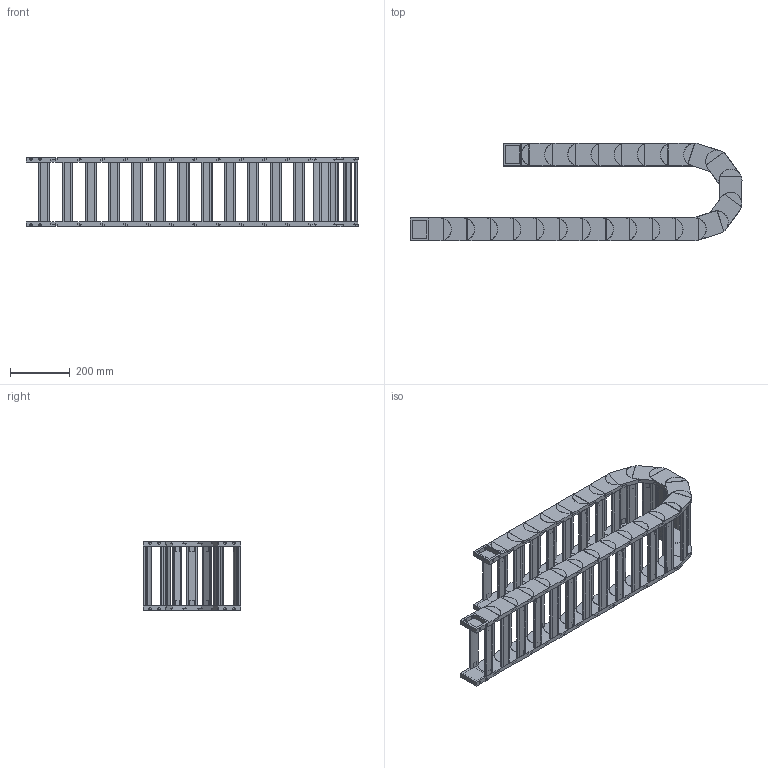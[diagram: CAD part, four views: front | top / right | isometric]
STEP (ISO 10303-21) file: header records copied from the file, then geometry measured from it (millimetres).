
FILE_DESCRIPTION((''),'2;1');
FILE_NAME('HD55-R125-ZPT_ASM','2022-06-17T18:49:24',('admin'),(''),'CREO PARAMETRIC BY PTC INC, 2021164','CREO PARAMETRIC BY PTC INC, 2021164','');
FILE_SCHEMA(('CONFIG_CONTROL_DESIGN','GEOMETRIC_VALIDATION_PROPERTIES_MIM'));
Length unit declared in the file: millimetre
Products named in the file (6): HD-55; 55-500001; HD55_ASM; H55-T1; H55-T2; HD55-R125-ZPT_ASM
Assembly tree (29 placements, depth 3):
  HD55-R125-ZPT_ASM
    HD55_ASM  x23
      HD-55
      55-500001
    H55-T1
    H55-T2
    55-500001  x2
Bounding box: 1110.7 x 325.99 x 232.7 mm (x, y, z)
Volume: 7388474.6 mm3; surface area: 2258282.8 mm2
Topology: 100 solids, 100 shells, 1662 faces, 4266 edges, 2908 vertices
Faces by surface type: plane 1370, cylinder 292
Entity records: 8771 total; most frequent: CARTESIAN_POINT 1294, DIRECTION 1256, ORIENTED_EDGE 1172, EDGE_CURVE 586, AXIS2_PLACEMENT_3D 419, VECTOR 418, LINE 418, VERTEX_POINT 396
